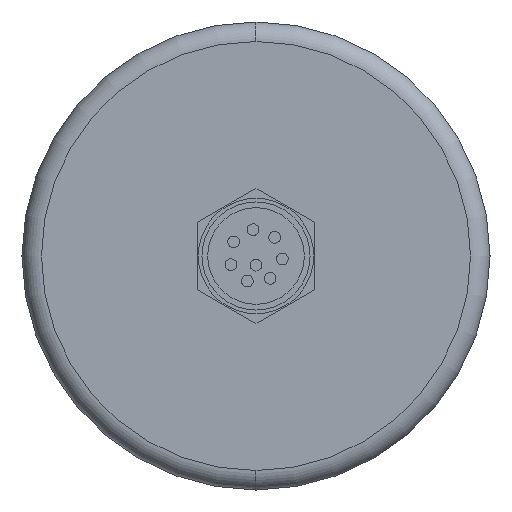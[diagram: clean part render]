
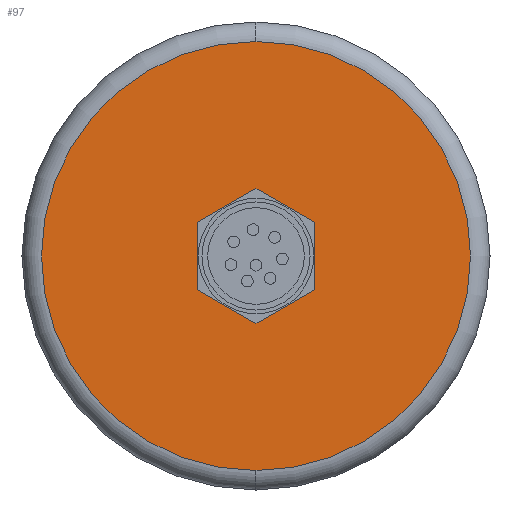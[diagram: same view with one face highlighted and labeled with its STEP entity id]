
A CAD part, left-side view. The second image highlights one B-rep face of the part: STEP entity #97.
In plain terms, the highlighted planar face has unit normal (-1, 0, 0).
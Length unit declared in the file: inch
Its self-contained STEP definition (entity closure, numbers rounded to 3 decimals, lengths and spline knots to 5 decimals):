
#97 = ADVANCED_FACE ( 'NONE', ( #3925, #3929 ), #1677, .F. ) ;
#120 = CIRCLE ( 'NONE', #1010, 0.1953 ) ;
#419 = ORIENTED_EDGE ( 'NONE', *, *, #2883, .F. ) ;
#497 = DIRECTION ( 'NONE',  ( -1., 0., 0. ) ) ;
#995 = DIRECTION ( 'NONE',  ( -1., 0., 0. ) ) ;
#1004 = EDGE_CURVE ( 'NONE', #3502, #4509, #1880, .T. ) ;
#1010 = AXIS2_PLACEMENT_3D ( 'NONE', #4588, #3866, #2558 ) ;
#1261 = AXIS2_PLACEMENT_3D ( 'NONE', #3278, #995, #3649 ) ;
#1328 = DIRECTION ( 'NONE',  ( 0., 0., -1. ) ) ;
#1557 = DIRECTION ( 'NONE',  ( 1., 0., 0. ) ) ;
#1611 = AXIS2_PLACEMENT_3D ( 'NONE', #2038, #1557, #1328 ) ;
#1677 = PLANE ( 'NONE',  #1611 ) ;
#1720 = ORIENTED_EDGE ( 'NONE', *, *, #1812, .F. ) ;
#1789 = ORIENTED_EDGE ( 'NONE', *, *, #3787, .T. ) ;
#1812 = EDGE_CURVE ( 'NONE', #2672, #3102, #120, .T. ) ;
#1826 = DIRECTION ( 'NONE',  ( -1., 0., 0. ) ) ;
#1880 = CIRCLE ( 'NONE', #2967, 1.375 ) ;
#2038 = CARTESIAN_POINT ( 'NONE',  ( 0., 0., 0. ) ) ;
#2124 = ORIENTED_EDGE ( 'NONE', *, *, #1004, .T. ) ;
#2185 = CIRCLE ( 'NONE', #3740, 0.1953 ) ;
#2243 = CARTESIAN_POINT ( 'NONE',  ( 0., 0., 0.1953 ) ) ;
#2460 = CARTESIAN_POINT ( 'NONE',  ( 0., 0., 0. ) ) ;
#2558 = DIRECTION ( 'NONE',  ( 0., 0., 1. ) ) ;
#2672 = VERTEX_POINT ( 'NONE', #2243 ) ;
#2878 = CARTESIAN_POINT ( 'NONE',  ( 0., 0., -0.1953 ) ) ;
#2883 = EDGE_CURVE ( 'NONE', #3102, #2672, #2185, .T. ) ;
#2967 = AXIS2_PLACEMENT_3D ( 'NONE', #4069, #1826, #4440 ) ;
#3102 = VERTEX_POINT ( 'NONE', #2878 ) ;
#3119 = CARTESIAN_POINT ( 'NONE',  ( 0., 0., -1.375 ) ) ;
#3175 = DIRECTION ( 'NONE',  ( 0., 0., 1. ) ) ;
#3278 = CARTESIAN_POINT ( 'NONE',  ( 0., 0., 0. ) ) ;
#3485 = CARTESIAN_POINT ( 'NONE',  ( 0., 0., 1.375 ) ) ;
#3502 = VERTEX_POINT ( 'NONE', #3119 ) ;
#3548 = CIRCLE ( 'NONE', #1261, 1.375 ) ;
#3649 = DIRECTION ( 'NONE',  ( 0., 0., -1. ) ) ;
#3740 = AXIS2_PLACEMENT_3D ( 'NONE', #2460, #497, #3175 ) ;
#3787 = EDGE_CURVE ( 'NONE', #4509, #3502, #3548, .T. ) ;
#3866 = DIRECTION ( 'NONE',  ( -1., 0., 0. ) ) ;
#3925 = FACE_BOUND ( 'NONE', #4140, .T. ) ;
#3929 = FACE_OUTER_BOUND ( 'NONE', #4581, .T. ) ;
#4069 = CARTESIAN_POINT ( 'NONE',  ( 0., 0., 0. ) ) ;
#4140 = EDGE_LOOP ( 'NONE', ( #1720, #419 ) ) ;
#4440 = DIRECTION ( 'NONE',  ( 0., 0., -1. ) ) ;
#4509 = VERTEX_POINT ( 'NONE', #3485 ) ;
#4581 = EDGE_LOOP ( 'NONE', ( #2124, #1789 ) ) ;
#4588 = CARTESIAN_POINT ( 'NONE',  ( 0., 0., 0. ) ) ;
